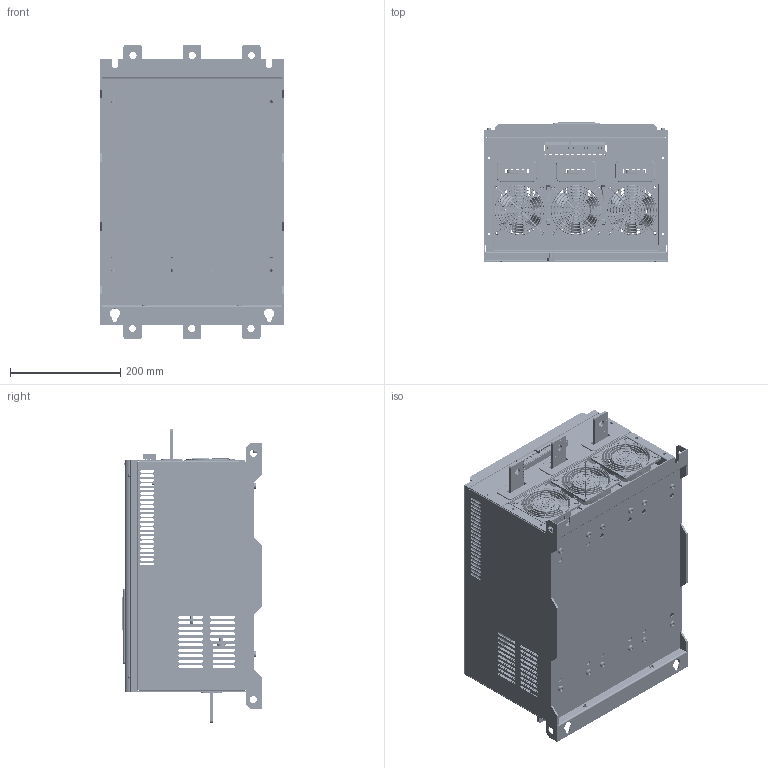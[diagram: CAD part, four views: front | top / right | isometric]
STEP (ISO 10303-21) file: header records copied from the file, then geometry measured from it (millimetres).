
FILE_DESCRIPTION((''),'2;1');
FILE_NAME('NJR5-180_370ZX_ASM','2022-02-11T10:34:04',('ruanmm'),(''),'CREO PARAMETRIC BY PTC INC, 2020044','CREO PARAMETRIC BY PTC INC, 2020044','');
FILE_SCHEMA(('CONFIG_CONTROL_DESIGN','SHAPE_APPEARANCE_LAYERS_GROUPS'));
Products named in the file (123): NJR3-F4-WK-1_6_4; S-M5-2_2_3; S-M6-2_2_3; MANIFOLD_SOLID_BREP_16857_3; MANIFOLD_SOLID_BREP_17382_3; E-M8_2_ASM_3_ASM; NJR3-F4-WK-1-ASM_ASM_8_ASM_4_ASM; NJR3-F4-CEB-Z-1_2_3; S-M4-2_2_5; NJR3-F4-CEB-Z-1-ASM_ASM_2_ASM_3_ASM; NJR3-F4-ZHIJIA-1-1_6_3; NJR3-F4-ZHIJIA-1-1__ASM_2_ASM_3_ASM; NJR3-F4-CEB-Z-1__ASM_5_ASM_3_ASM; NJR3-F4-CEB-Y-1_3_3; NJR3-F4-CEB-Y-1-ASM_ASM_2_ASM_3_ASM; NJR3-QIAO-PL-PL_2_3; NJR3-QIAO-PL-2_ASM_2_ASM_3_ASM; NJR3-F4-CEB-Y-1__ASM_7_ASM_3_ASM; NJR3-F4-DIZUO_ASM_21_ASM_4_ASM; NJR3-F4-CEB-Q-1_6_3; NJR3-F4-CEB-H-1_10_4; TOP-PLATE-NEW_6_3; NED-PL-A_2_3; PRT0003_2_3; TOP-PLATE-NEW-ASM_ASM_3_ASM_3_ASM; PVC-POST_2_3; 048119__2_3; SHANGGAI-XIN__2_1_1_2_3; XSP__1_1_1_2_3; M3TONG__1_1_1_2_3; XLB-XIN__3_10_1_2_3; PCB-BL_1_1_2_3; XLB-XIN-3_ASM_1_1_ASM_2_ASM_3_ASM; XIAGAI-XIN__2_1_1_2_3; MANIFOLD_SOLID_BREP_40621_2_1_1; MANIFOLD_SOLID_BREP_40621_2_1_3; MANIFOLD_SOLID_BREP_40621_2_1_4; MANIFOLD_SOLID_BREP_40621_2_1_5; MANIFOLD_SOLID_BREP_40621_2_1_6; MANIFOLD_SOLID_BREP_40621_2_1_7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
Assembly tree (204 placements, depth 9):
  NJR5-180_370ZX_ASM
    0-NJR2-ZX-160KW_ASM_53_ASM_4_ASM
      NJR2-ZX-160KW-WK_ASM_11_ASM_3_ASM
        NJR3-F4-DIZUO_ASM_21_ASM_4_ASM
          NJR3-F4-WK-1-ASM_ASM_8_ASM_4_ASM
            NJR3-F4-WK-1_6_4
            S-M5-2_2_3  x2
            S-M6-2_2_3  x12
            E-M8_2_ASM_3_ASM
              MANIFOLD_SOLID_BREP_16857_3
              MANIFOLD_SOLID_BREP_17382_3
          NJR3-F4-CEB-Z-1__ASM_5_ASM_3_ASM
            NJR3-F4-CEB-Z-1-ASM_ASM_2_ASM_3_ASM
              NJR3-F4-CEB-Z-1_2_3
              S-M4-2_2_5  x2
              S-M5-2_2_3  x5
            NJR3-F4-ZHIJIA-1-1__ASM_2_ASM_3_ASM  x5
              NJR3-F4-ZHIJIA-1-1_6_3
              S-M4-2_2_5
          NJR3-F4-CEB-Y-1__ASM_7_ASM_3_ASM
            NJR3-F4-CEB-Y-1-ASM_ASM_2_ASM_3_ASM
              NJR3-F4-CEB-Y-1_3_3
              S-M4-2_2_5  x2
              S-M5-2_2_3  x5
            NJR3-F4-ZHIJIA-1-1__ASM_2_ASM_3_ASM  x4
              NJR3-F4-ZHIJIA-1-1_6_3
              S-M4-2_2_5
            NJR3-QIAO-PL-2_ASM_2_ASM_3_ASM
              NJR3-QIAO-PL-PL_2_3
              S-M4-2_2_5
        NJR3-F4-CEB-Q-1_6_3
        NJR3-F4-CEB-H-1_10_4
        NJR3-F2-GAI-1__ASM_7_ASM_3_ASM
          TOP-PLATE-NEW-ASM_ASM_3_ASM_3_ASM
            TOP-PLATE-NEW_6_3
            NED-PL-A_2_3
            PRT0003_2_3
          PVC-POST_2_3
          048119__2_3
          ASM0003_ASM_2_ASM_3_ASM
            ZHONGZHUTU2__ASM_1_ASM_2_1_ASM__ASM
              SHANGGAI-XIN__2_1_1_2_3
              XSP__1_1_1_2_3
              M3TONG__1_1_1_2_3  x4
              XLB-XIN-3_ASM_1_1_ASM_2_ASM_3_ASM
                XLB-XIN__3_10_1_2_3
                PCB-BL_1_1_2_3
              XIAGAI-XIN__2_1_1_2_3
              XSGMP-75ZX-M__2_ASM_1_1_ASM_2_A_ASM
                MANIFOLD_SOLID_BREP_40621_2_1_A_ASM
                  MANIFOLD_SOLID_BREP_40621_2_1_1
                  MANIFOLD_SOLID_BREP_40621_2_1_3
                  MANIFOLD_SOLID_BREP_40621_2_1_4
                  MANIFOLD_SOLID_BREP_40621_2_1_5
                  MANIFOLD_SOLID_BREP_40621_2_1_6
                  MANIFOLD_SOLID_BREP_40621_2_1_7
                  MANIFOLD_SOLID_BREP_40621_2_1_8
                  MANIFOLD_SOLID_BREP_40621_2_1_9
                  MANIFOLD_SOLID_BREP_40621_2__10
                  MANIFOLD_SOLID_BREP_40621_2__11
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Bounding box: 335 x 254.6 x 534.86 mm (x, y, z)
Volume: 1830846.6 mm3; surface area: 1985218.2 mm2
Topology: 204 solids, 236 shells, 22254 faces, 60198 edges, 39718 vertices
Faces by surface type: plane 18774, cylinder 2700, torus 332, cone 296, bspline 140, sphere 12
Entity records: 309289 total; most frequent: CARTESIAN_POINT 51725, ORIENTED_EDGE 43082, DIRECTION 40998, EDGE_CURVE 21551, VECTOR 18180, LINE 18180, PRESENTATION_STYLE_ASSIGNMENT 15524, STYLED_ITEM 15524
